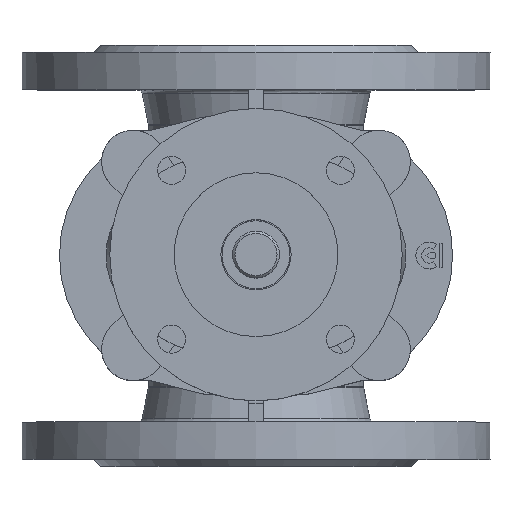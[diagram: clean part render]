
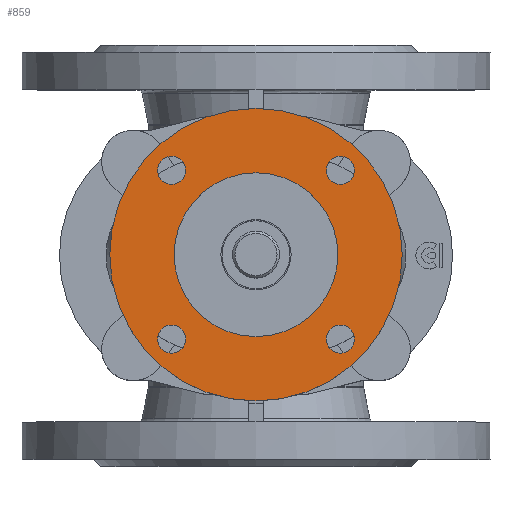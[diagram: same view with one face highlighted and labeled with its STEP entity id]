
A CAD part, top view. The second image highlights one B-rep face of the part: STEP entity #859.
In plain terms, the highlighted planar face has unit normal (0, 0, 1).
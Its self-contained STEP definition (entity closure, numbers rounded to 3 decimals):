
#859=ADVANCED_FACE('',(#2982,#2984,#2986,#2988,#2990,#2992),#2994,.T.);
#2982=FACE_BOUND('',#2983,.T.);
#2983=EDGE_LOOP('',(#4874));
#2984=FACE_BOUND('',#2985,.T.);
#2985=EDGE_LOOP('',(#4875));
#2986=FACE_BOUND('',#2987,.T.);
#2987=EDGE_LOOP('',(#4876));
#2988=FACE_BOUND('',#2989,.T.);
#2989=EDGE_LOOP('',(#4877));
#2990=FACE_BOUND('',#2991,.T.);
#2991=EDGE_LOOP('',(#4878));
#2992=FACE_BOUND('',#2993,.T.);
#2993=EDGE_LOOP('',(#4879));
#2994=PLANE('',#2995);
#2995=AXIS2_PLACEMENT_3D('',#2996,#2997,#2998);
#2996=CARTESIAN_POINT('',(0.,0.,319.));
#2997=DIRECTION('',(0.,0.,1.));
#2998=DIRECTION('',(-1.,0.,0.));
#4874=ORIENTED_EDGE('',*,*,#5872,.F.);
#4875=ORIENTED_EDGE('',*,*,#5873,.T.);
#4876=ORIENTED_EDGE('',*,*,#5874,.T.);
#4877=ORIENTED_EDGE('',*,*,#5875,.T.);
#4878=ORIENTED_EDGE('',*,*,#5918,.T.);
#4879=ORIENTED_EDGE('',*,*,#5876,.T.);
#5872=EDGE_CURVE('',#6653,#6653,#6654,.T.);
#5873=EDGE_CURVE('',#6655,#6655,#6656,.F.);
#5874=EDGE_CURVE('',#6657,#6657,#6658,.F.);
#5875=EDGE_CURVE('',#6659,#6659,#6660,.F.);
#5876=EDGE_CURVE('',#6661,#6661,#6662,.F.);
#5918=EDGE_CURVE('',#6733,#6733,#6734,.T.);
#6653=VERTEX_POINT('',#8644);
#6654=CIRCLE('',#8645,62.5);
#6655=VERTEX_POINT('',#8649);
#6656=CIRCLE('',#8650,6.);
#6657=VERTEX_POINT('',#8654);
#6658=CIRCLE('',#8655,6.);
#6659=VERTEX_POINT('',#8659);
#6660=CIRCLE('',#8660,6.);
#6661=VERTEX_POINT('',#8664);
#6662=CIRCLE('',#8665,6.);
#6733=VERTEX_POINT('',#8846);
#6734=CIRCLE('',#8847,35.);
#8644=CARTESIAN_POINT('',(-62.5,0.,319.));
#8645=AXIS2_PLACEMENT_3D('',#8646,#8647,#8648);
#8646=CARTESIAN_POINT('',(0.,0.,319.));
#8647=DIRECTION('',(0.,0.,-1.));
#8648=DIRECTION('',(-1.,0.,0.));
#8649=CARTESIAN_POINT('',(36.062,-30.062,319.));
#8650=AXIS2_PLACEMENT_3D('',#8651,#8652,#8653);
#8651=CARTESIAN_POINT('',(36.062,-36.062,319.));
#8652=DIRECTION('',(0.,0.,1.));
#8653=DIRECTION('',(0.,1.,0.));
#8654=CARTESIAN_POINT('',(-30.062,-36.062,319.));
#8655=AXIS2_PLACEMENT_3D('',#8656,#8657,#8658);
#8656=CARTESIAN_POINT('',(-36.062,-36.062,319.));
#8657=DIRECTION('',(0.,0.,1.));
#8658=DIRECTION('',(1.,0.,0.));
#8659=CARTESIAN_POINT('',(-36.062,30.062,319.));
#8660=AXIS2_PLACEMENT_3D('',#8661,#8662,#8663);
#8661=CARTESIAN_POINT('',(-36.062,36.062,319.));
#8662=DIRECTION('',(0.,0.,1.));
#8663=DIRECTION('',(0.,-1.,0.));
#8664=CARTESIAN_POINT('',(30.062,36.062,319.));
#8665=AXIS2_PLACEMENT_3D('',#8666,#8667,#8668);
#8666=CARTESIAN_POINT('',(36.062,36.062,319.));
#8667=DIRECTION('',(0.,0.,1.));
#8668=DIRECTION('',(-1.,0.,0.));
#8846=CARTESIAN_POINT('',(-35.,0.,319.));
#8847=AXIS2_PLACEMENT_3D('',#8848,#8849,#8850);
#8848=CARTESIAN_POINT('',(0.,0.,319.));
#8849=DIRECTION('',(0.,0.,-1.));
#8850=DIRECTION('',(-1.,0.,0.));
